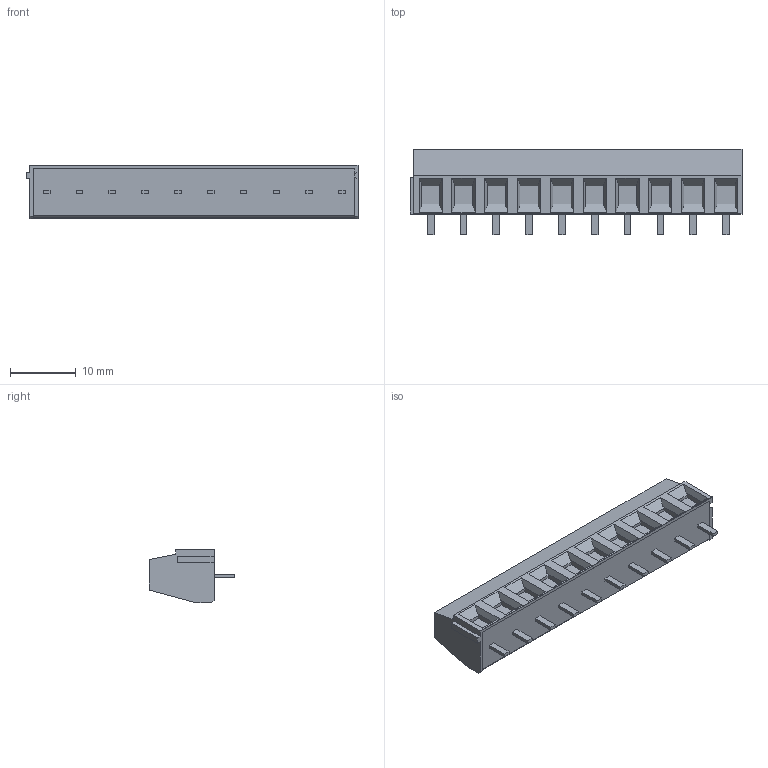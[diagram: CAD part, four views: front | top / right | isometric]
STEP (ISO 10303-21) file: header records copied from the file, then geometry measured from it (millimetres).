
FILE_DESCRIPTION((''),'2;1');
FILE_NAME('398900310','2015-02-25T',('me'),(''),'PRO/ENGINEER BY PARAMETRIC TECHNOLOGY CORPORATION, 2011490','PRO/ENGINEER BY PARAMETRIC TECHNOLOGY CORPORATION, 2011490','');
FILE_SCHEMA(('CONFIG_CONTROL_DESIGN'));
Length unit declared in the file: inch
Products named in the file (1): 398900310
Bounding box: 50.65 x 13.08 x 8.13 mm (x, y, z)
Volume: 2962.9 mm3; surface area: 2769.3 mm2
Topology: 1 solids, 1 shells, 329 faces, 919 edges, 652 vertices
Faces by surface type: plane 248, cylinder 61, torus 10, cone 10
Entity records: 11335 total; most frequent: CARTESIAN_POINT 2728, DIRECTION 1791, ORIENTED_EDGE 1738, EDGE_CURVE 869, VECTOR 627, LINE 627, AXIS2_PLACEMENT_3D 582, VERTEX_POINT 572
